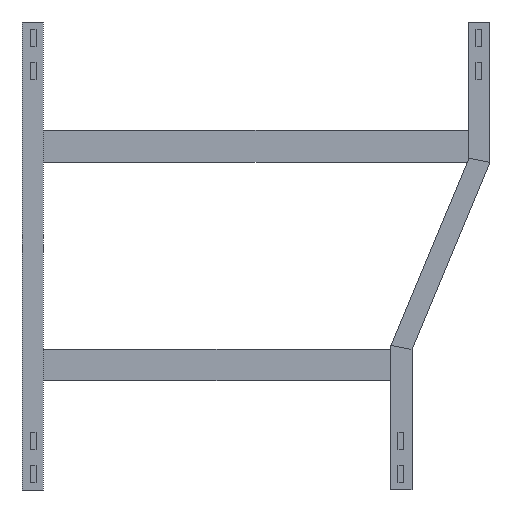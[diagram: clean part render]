
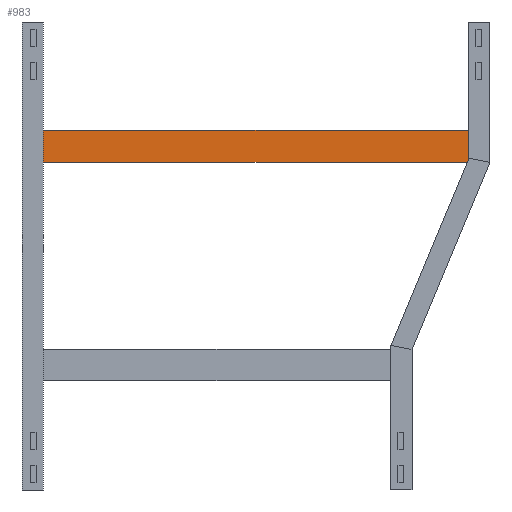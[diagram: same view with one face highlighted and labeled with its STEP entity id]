
A CAD part, front view. The second image highlights one B-rep face of the part: STEP entity #983.
In plain terms, the highlighted planar face has unit normal (0, -1, 0).
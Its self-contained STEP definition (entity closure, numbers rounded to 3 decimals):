
#89 = AXIS2_PLACEMENT_3D ( 'NONE', #1641, #1930, #515 ) ;
#152 = VECTOR ( 'NONE', #2281, 1000. ) ;
#396 = VERTEX_POINT ( 'NONE', #2753 ) ;
#515 = DIRECTION ( 'NONE',  ( 0., 0., 1. ) ) ;
#802 = CARTESIAN_POINT ( 'NONE',  ( -298., 0., 20.25 ) ) ;
#864 = CARTESIAN_POINT ( 'NONE',  ( 298., 0., 20.25 ) ) ;
#983 = ADVANCED_FACE ( 'NONE', ( #1354 ), #2189, .F. ) ;
#1060 = CARTESIAN_POINT ( 'NONE',  ( -298., 0., -20.25 ) ) ;
#1195 = EDGE_CURVE ( 'NONE', #396, #1557, #3336, .T. ) ;
#1354 = FACE_OUTER_BOUND ( 'NONE', #2220, .T. ) ;
#1557 = VERTEX_POINT ( 'NONE', #802 ) ;
#1641 = CARTESIAN_POINT ( 'NONE',  ( 298., 0., 20.25 ) ) ;
#1775 = LINE ( 'NONE', #1831, #2506 ) ;
#1831 = CARTESIAN_POINT ( 'NONE',  ( -298., 0., 20.25 ) ) ;
#1912 = ORIENTED_EDGE ( 'NONE', *, *, #2531, .F. ) ;
#1930 = DIRECTION ( 'NONE',  ( 0., 1., 0. ) ) ;
#1938 = EDGE_CURVE ( 'NONE', #2597, #3506, #3394, .T. ) ;
#1985 = DIRECTION ( 'NONE',  ( -1., 0., 0. ) ) ;
#2032 = VECTOR ( 'NONE', #3529, 1000. ) ;
#2189 = PLANE ( 'NONE',  #89 ) ;
#2220 = EDGE_LOOP ( 'NONE', ( #3441, #3626, #1912, #2250 ) ) ;
#2250 = ORIENTED_EDGE ( 'NONE', *, *, #1195, .T. ) ;
#2281 = DIRECTION ( 'NONE',  ( -1., 0., 0. ) ) ;
#2506 = VECTOR ( 'NONE', #2902, 1000. ) ;
#2531 = EDGE_CURVE ( 'NONE', #396, #2597, #2963, .T. ) ;
#2597 = VERTEX_POINT ( 'NONE', #2910 ) ;
#2753 = CARTESIAN_POINT ( 'NONE',  ( 298., 0., 20.25 ) ) ;
#2776 = CARTESIAN_POINT ( 'NONE',  ( 298., 0., -20.25 ) ) ;
#2902 = DIRECTION ( 'NONE',  ( 0., 0., -1. ) ) ;
#2910 = CARTESIAN_POINT ( 'NONE',  ( 298., 0., -20.25 ) ) ;
#2963 = LINE ( 'NONE', #2982, #2032 ) ;
#2982 = CARTESIAN_POINT ( 'NONE',  ( 298., 0., 20.25 ) ) ;
#3016 = VECTOR ( 'NONE', #1985, 1000. ) ;
#3325 = EDGE_CURVE ( 'NONE', #1557, #3506, #1775, .T. ) ;
#3336 = LINE ( 'NONE', #864, #3016 ) ;
#3394 = LINE ( 'NONE', #2776, #152 ) ;
#3441 = ORIENTED_EDGE ( 'NONE', *, *, #3325, .T. ) ;
#3506 = VERTEX_POINT ( 'NONE', #1060 ) ;
#3529 = DIRECTION ( 'NONE',  ( 0., 0., -1. ) ) ;
#3626 = ORIENTED_EDGE ( 'NONE', *, *, #1938, .F. ) ;
